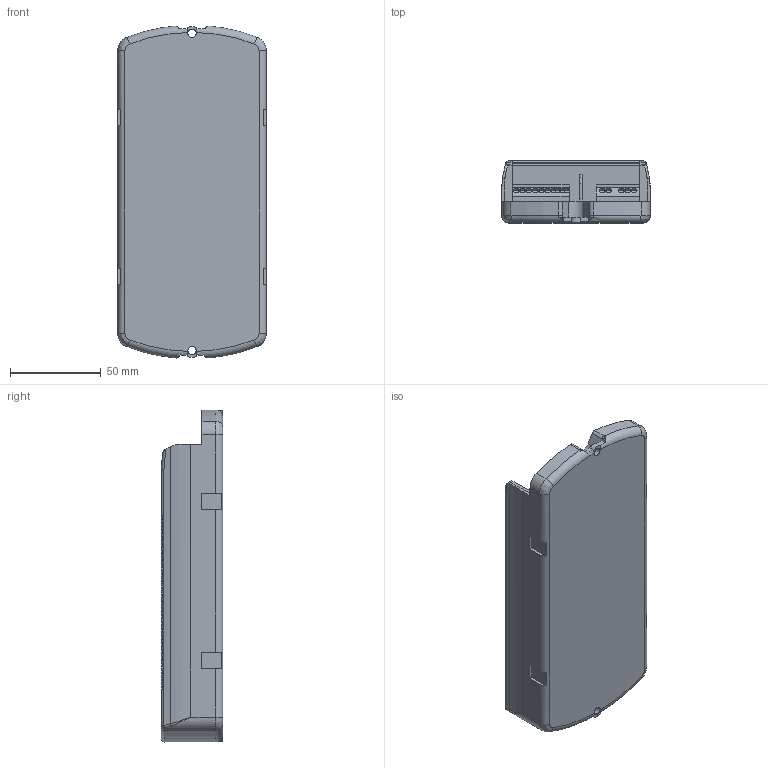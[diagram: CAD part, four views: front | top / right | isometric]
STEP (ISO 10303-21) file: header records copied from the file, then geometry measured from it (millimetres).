
FILE_DESCRIPTION((''),'2;1');
FILE_NAME('09812792Z','2014-11-26T',('torbenh'),(''),'PRO/ENGINEER BY PARAMETRIC TECHNOLOGY CORPORATION, 2013410','PRO/ENGINEER BY PARAMETRIC TECHNOLOGY CORPORATION, 2013410','');
FILE_SCHEMA(('AUTOMOTIVE_DESIGN { 1 0 10303 214 1 1 1 1 }'));
Length unit declared in the file: millimetre
Products named in the file (1): 09812792Z
Bounding box: 82 x 34 x 183.15 mm (x, y, z)
Volume: 419889.1 mm3; surface area: 49736.5 mm2
Topology: 1 solids, 1 shells, 434 faces, 1205 edges, 788 vertices
Faces by surface type: plane 264, cylinder 136, torus 14, bspline 12, sphere 4, extrusion 4
Entity records: 14858 total; most frequent: CARTESIAN_POINT 3195, ORIENTED_EDGE 2410, DIRECTION 2347, EDGE_CURVE 1205, AXIS2_PLACEMENT_3D 802, VERTEX_POINT 788, VECTOR 743, LINE 739
